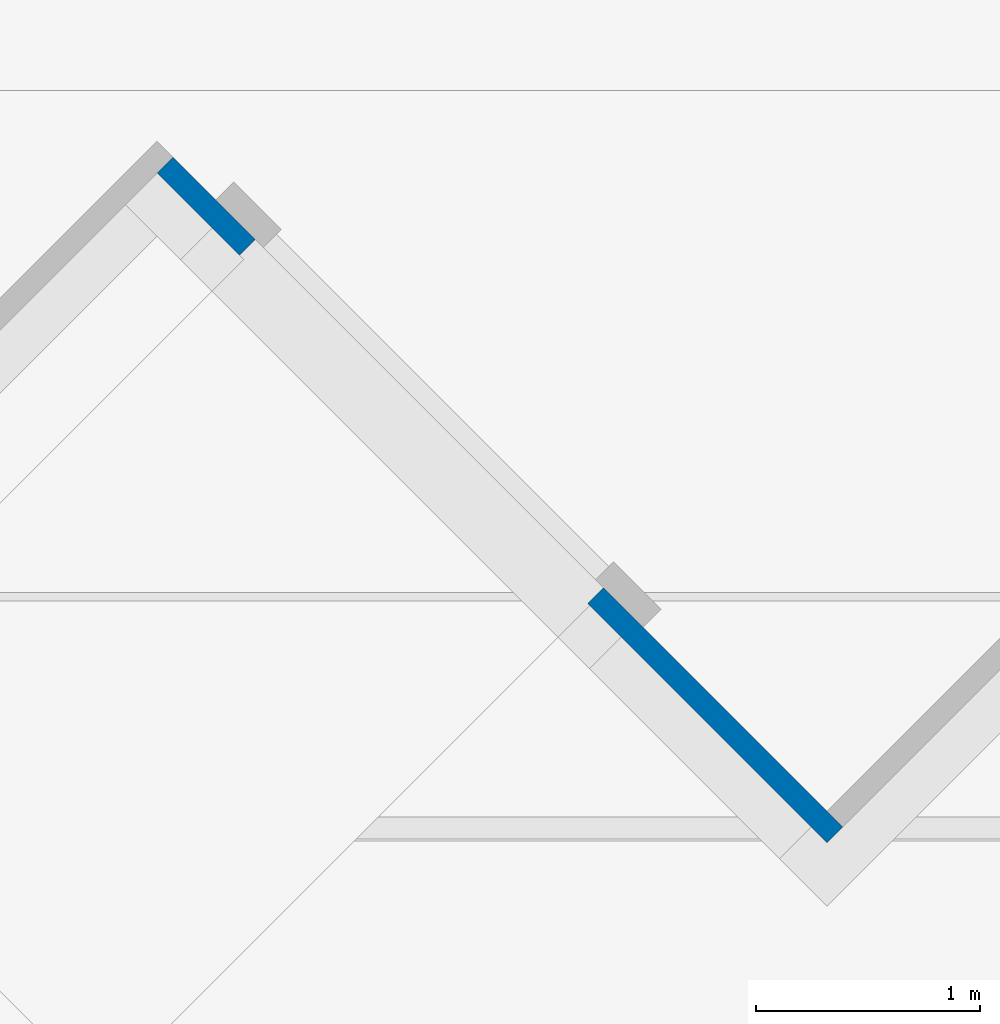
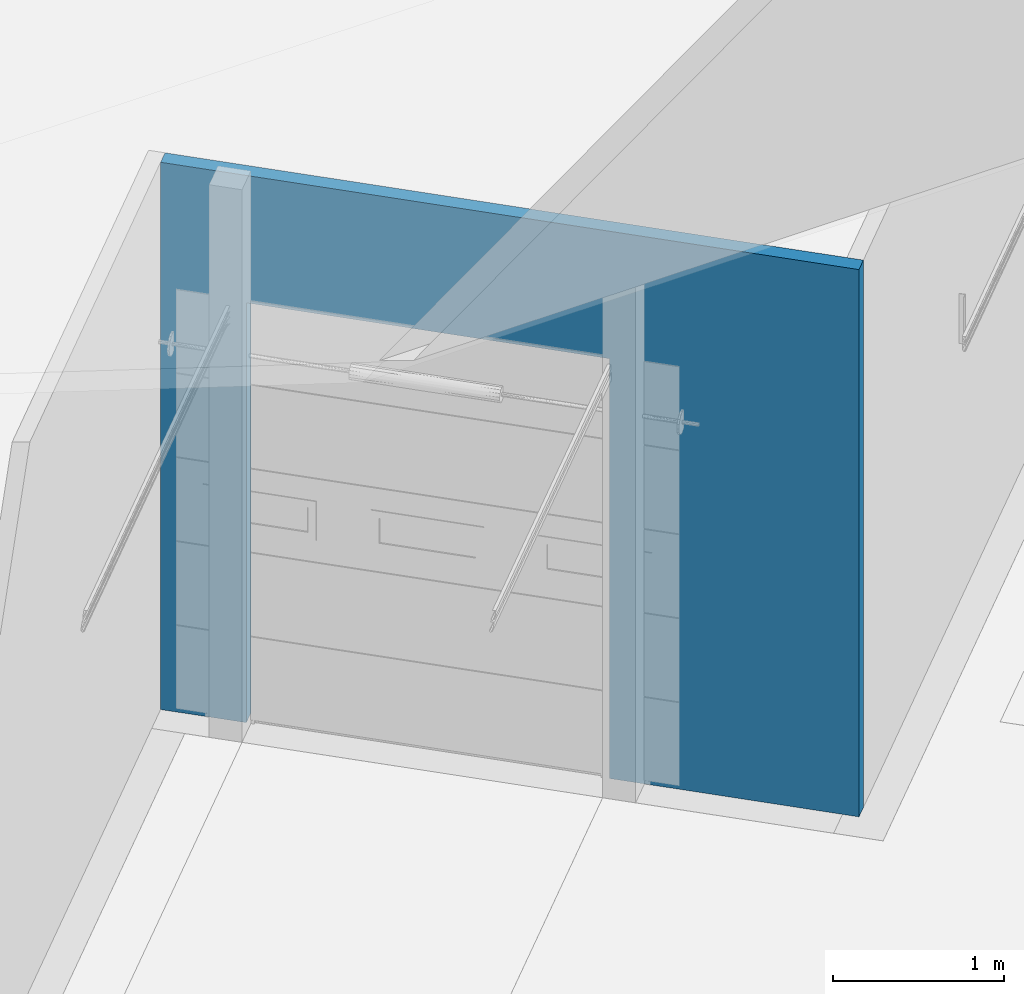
# One storey, part 44 of 64: 1 wall, 1 opening.
"""IFC2X3 building model written with IfcOpenShell, lengths in millimetres."""

from ifc_helpers import new_model, entity, si_unit, converted_unit, derived_unit, direction, frame, frame_2d, origin, place, context, subcontext, project, spatial, rectangle, extrude, material, layer, layer_set, layer_usage, type_object, element, save


model = new_model("IFC2X3")

# Units and contexts
model_context = context("Model", 3, precision=0.01, world=origin(), true_north=direction((4.05803320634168e-15, -1.0)))
body_context = subcontext(model_context, "Body", "Model", "MODEL_VIEW")
ifc_project = project(units=[si_unit("LENGTHUNIT", "METRE", prefix="MILLI"), si_unit("AREAUNIT", "SQUARE_METRE"), si_unit("VOLUMEUNIT", "CUBIC_METRE"), converted_unit("PLANEANGLEUNIT", "DEGREE", entity("IfcRatioMeasure", 0.0174532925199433), si_unit("PLANEANGLEUNIT", "RADIAN"), dimensions=[0, 0, 0, 0, 0, 0, 0]), si_unit("MASSUNIT", "GRAM", prefix="KILO"), derived_unit("MASSDENSITYUNIT", [(si_unit("MASSUNIT", "GRAM", prefix="KILO"), 1), (si_unit("LENGTHUNIT", "METRE"), -3)]), si_unit("TIMEUNIT", "SECOND"), si_unit("FREQUENCYUNIT", "HERTZ"), si_unit("THERMODYNAMICTEMPERATUREUNIT", "DEGREE_CELSIUS"), derived_unit("THERMALTRANSMITTANCEUNIT", [(si_unit("MASSUNIT", "GRAM", prefix="KILO"), 1), (si_unit("THERMODYNAMICTEMPERATUREUNIT", "KELVIN"), -1), (si_unit("TIMEUNIT", "SECOND"), -3)]), derived_unit("VOLUMETRICFLOWRATEUNIT", [(si_unit("LENGTHUNIT", "METRE"), 3), (si_unit("TIMEUNIT", "SECOND"), -1)]), si_unit("ELECTRICCURRENTUNIT", "AMPERE"), si_unit("ELECTRICVOLTAGEUNIT", "VOLT"), si_unit("POWERUNIT", "WATT"), si_unit("FORCEUNIT", "NEWTON", prefix="KILO"), si_unit("ILLUMINANCEUNIT", "LUX"), si_unit("LUMINOUSFLUXUNIT", "LUMEN"), si_unit("LUMINOUSINTENSITYUNIT", "CANDELA"), derived_unit("USERDEFINED", [(si_unit("MASSUNIT", "GRAM", prefix="KILO"), -1), (si_unit("LENGTHUNIT", "METRE"), -2), (si_unit("TIMEUNIT", "SECOND"), 3), (si_unit("LUMINOUSFLUXUNIT", "LUMEN"), 1)]), derived_unit("LINEARVELOCITYUNIT", [(si_unit("LENGTHUNIT", "METRE"), 1), (si_unit("TIMEUNIT", "SECOND"), -1)]), si_unit("PRESSUREUNIT", "PASCAL"), derived_unit("USERDEFINED", [(si_unit("LENGTHUNIT", "METRE"), -2), (si_unit("MASSUNIT", "GRAM", prefix="KILO"), 1), (si_unit("TIMEUNIT", "SECOND"), -2)])], contexts=[model_context])

# Site, building, storey
site_placement = place(None, frame((927466.849349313, 583801.882853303, 0.0), z_axis=(0.0, 0.0, 1.0), x_axis=(-1.0, 0.0, 0.0)))
site = spatial("IfcSite", under=ifc_project, at=site_placement, Name="Surface", CompositionType="ELEMENT")
building_placement = place(site_placement, origin())
building = spatial("IfcBuilding", under=site, at=building_placement, CompositionType="ELEMENT")
storey_placement = place(building_placement, frame((0.0, 0.0, 44170.0)))
storey = spatial("IfcBuildingStorey", under=building, at=storey_placement, Name="Ground FFL", CompositionType="ELEMENT", Elevation=44170.0)

# Wall, opening
ifc_material = material(Name="Isopenal")
ifc_layer = layer(ifc_material, 100.0)
ifc_layer_set = layer_set([ifc_layer], Name="Basic Wall:Isopanel")
ifc_layer_usage = layer_usage(ifc_layer_set, "AXIS2", "POSITIVE", -50.0)
wall_type = type_object("IfcWallType", Name="Basic Wall:Isopanel", PredefinedType="STANDARD", material=ifc_layer_set)
wall_placement = place(storey_placement, frame((-111011.100235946, -30575.5946140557, 0.0), z_axis=(0.0, 0.0, 1.0), x_axis=(0.707106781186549, -0.707106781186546, 0.0)))
wall = element("IfcWallStandardCase", 1, at=wall_placement, inside=storey, type_object=wall_type, material=ifc_layer_usage, Name="Basic Wall:Isopanel", ObjectType="Basic Wall:Isopanel", context=body_context, shape_type="SweptSolid", body=[
    extrude(rectangle(XDim=4232.26267936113, YDim=99.9999999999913, at=frame_2d((2116.13133968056, 8.13571432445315e-13), x_axis=(-1.0, 0.0))), origin(), (0.0, 0.0, 1.0), 3910.35154955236),
])
opening_placement = place(wall_placement, frame((1512.2626793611, -50.0, 0.0)))
element("IfcOpeningElement", 2, at=opening_placement, cuts=wall, Name="6m_Roller Shutter Doors:3000(w) x 3000(h):1", ObjectType="Opening", context=body_context, shape_type="SweptSolid", body=[
    extrude(rectangle(XDim=3000.0, YDim=2200.0, at=frame_2d((1500.0, 1100.0), x_axis=(1.0, 0.0))), frame((0.0, 0.0, 0.0), z_axis=(0.0, 1.0, 0.0), x_axis=(0.0, 0.0, 1.0)), (0.0, 0.0, 1.0), 100.0),
])

save(model, "model.ifc")
